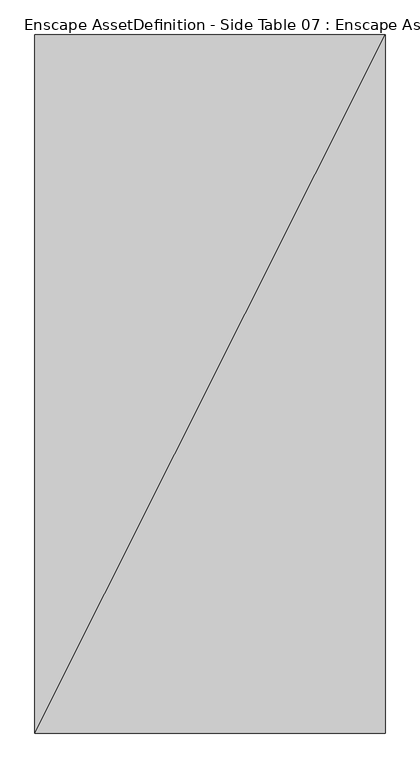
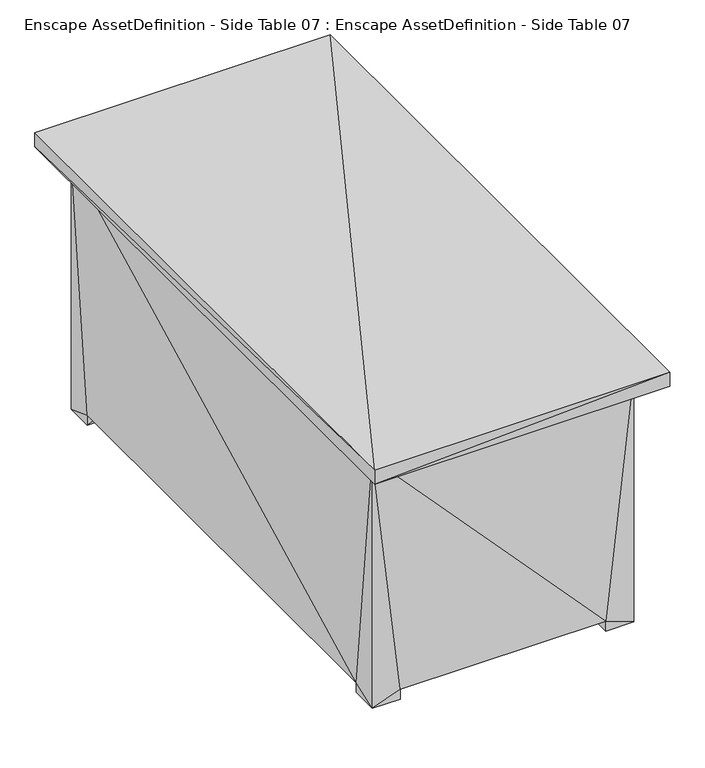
"""IFC4 building model written with IfcOpenShell, lengths in millimetres: geographic element geometry, Enscape AssetDefinition - Side Table 07 : Enscape AssetDefinition - Side Table 07."""

from ifc_helpers import new_model, si_unit, origin, place, context, project, spatial, faceted_brep, source, transform, mapped, element, save


def enscape_assetdefinition_side_table_07_enscape_9afeb607(model_context):
    return source(origin(), model_context, "Body", "Brep", [
        faceted_brep([(185.0489974, -420.4050004, 18.7010001), (-184.950009, -420.404017, 18.7010001), (185.0499809, 418.1280136, 18.7010001), (-234.950006, -420.4050004, 18.7010001), (-234.950006, 418.1280136, 18.7010001), (185.0489974, -470.4039991, 18.7010001), (-184.950009, -470.4039991, 18.7010001), (-184.950009, -420.404017, -0.082), (-184.950009, -470.4039991, -0.082), (-184.950009, 418.1280136, 18.7010001), (-234.950006, -470.4039991, -0.082), (-234.950006, -470.4039991, 473.1969833), (-234.950006, -420.4050004, -0.082), (-265.3269768, -530.3109884, 473.1969833), (265.4260099, -530.3109884, 473.1969833), (235.0489944, -470.4039991, 473.1969833), (-234.950006, 468.1279957, 473.1969833), (265.4260099, -530.3109884, 499.917984), (-265.3269768, 528.0339718, 473.1969833), (-265.3269768, -530.3109884, 499.917984), (265.4260099, 528.0339718, 499.917984), (-265.3269768, 528.0339718, 499.917984), (265.4260099, 528.0339718, 473.1969833), (235.0489944, 468.1279957, 473.1969833), (235.0489944, 468.1279957, -0.082), (235.0489944, 418.1280136, 18.7010001), (-184.950009, 468.1279957, 18.7010001), (185.0499809, 468.1279957, 18.7010001), (185.0499809, 418.1280136, -0.082), (185.0499809, 468.1279957, -0.082), (235.0489944, 418.1280136, -0.082), (235.0489944, -420.4050004, 18.7010001), (235.0489944, -420.4050004, -0.082), (235.0489944, -470.4039991, -0.082), (185.0489974, -420.4050004, -0.082), (185.0489974, -470.4039991, -0.082), (-234.950006, 468.1279957, -0.082), (-184.950009, 468.1279957, -0.082), (-184.950009, 418.1280136, -0.082), (-234.950006, 418.1280136, -0.082)], [[[0, 1, 2]], [[1, 3, 4]], [[1, 5, 6]], [[7, 1, 8]], [[2, 1, 9]], [[1, 4, 9]], [[5, 1, 0]], [[7, 3, 1]], [[8, 1, 6]], [[8, 6, 10]], [[11, 6, 5]], [[10, 6, 11]], [[7, 8, 10]], [[12, 3, 7]], [[7, 10, 12]], [[10, 11, 3]], [[10, 3, 12]], [[13, 11, 14]], [[11, 5, 15]], [[16, 3, 11]], [[14, 11, 15]], [[13, 16, 11]], [[13, 14, 17]], [[18, 13, 19]], [[18, 16, 13]], [[13, 17, 19]], [[20, 19, 17]], [[14, 20, 17]], [[21, 19, 20]], [[18, 19, 21]], [[22, 18, 21]], [[22, 23, 18]], [[18, 23, 16]], [[22, 21, 20]], [[14, 22, 20]], [[14, 15, 22]], [[22, 15, 23]], [[24, 23, 25]], [[15, 25, 23]], [[23, 26, 16]], [[23, 27, 26]], [[24, 27, 23]], [[28, 29, 24]], [[29, 27, 24]], [[28, 24, 30]], [[24, 25, 30]], [[2, 26, 27]], [[29, 2, 27]], [[28, 2, 29]], [[30, 25, 28]], [[28, 25, 2]], [[2, 25, 31]], [[15, 31, 25]], [[26, 2, 9]], [[2, 31, 0]], [[32, 31, 33]], [[32, 0, 31]], [[33, 31, 15]], [[33, 15, 5]], [[34, 32, 33]], [[34, 33, 35]], [[33, 5, 35]], [[34, 0, 32]], [[34, 5, 0]], [[35, 5, 34]], [[36, 16, 26]], [[37, 26, 38]], [[38, 26, 9]], [[36, 26, 37]], [[16, 4, 3]], [[36, 4, 16]], [[38, 39, 36]], [[39, 4, 36]], [[38, 36, 37]], [[38, 9, 39]], [[39, 9, 4]]]),
    ])


if __name__ == "__main__":
    model = new_model("IFC4")
    model_context = context("Model", 3, world=origin())
    ifc_project = project(units=[si_unit("LENGTHUNIT", "METRE", prefix="MILLI")], contexts=[model_context])
    site = spatial("IfcSite", under=ifc_project)
    building = spatial("IfcBuilding", under=site)
    placement = place(None, origin())
    enscape_assetdefinition_side_table_07_enscape_shape = enscape_assetdefinition_side_table_07_enscape_9afeb607(model_context)
    element("IfcGeographicElement", 1, ObjectType="Enscape AssetDefinition - Side Table 07 : Enscape AssetDefinition - Side Table 07", at=placement, inside=building, context=model_context, shape_type="MappedRepresentation", body=[
        mapped(enscape_assetdefinition_side_table_07_enscape_shape, transform((0.0, 0.0, 0.0), x_axis=(1.0, 0.0, 0.0), y_axis=(0.0, 1.0, 0.0), z_axis=(0.0, 0.0, 1.0))),
    ])
    save(model, "model.ifc")
